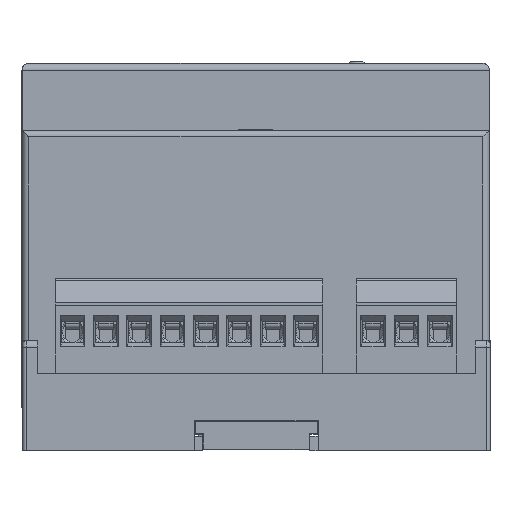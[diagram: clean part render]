
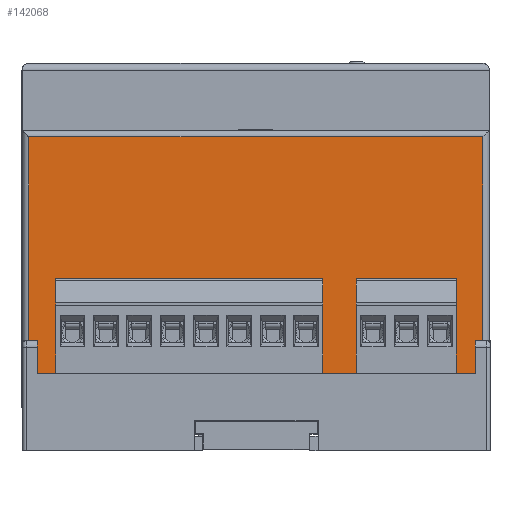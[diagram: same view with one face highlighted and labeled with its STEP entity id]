
A CAD part, front view. The second image highlights one B-rep face of the part: STEP entity #142068.
In plain terms, the highlighted planar face has unit normal (0, -1, 0) as drawn and (0, 0, 1) by its records, which use the part's own axes.
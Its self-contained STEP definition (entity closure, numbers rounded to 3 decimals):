
#1389 = DIRECTION ( 'NONE',  ( 0., -1., 0. ) ) ;
#1850 = VECTOR ( 'NONE', #75907, 1000. ) ;
#2167 = CARTESIAN_POINT ( 'NONE',  ( 1., 30.5, 0. ) ) ;
#2697 = CARTESIAN_POINT ( 'NONE',  ( 68.5, -5., 0. ) ) ;
#4814 = DIRECTION ( 'NONE',  ( 0.707, -0.707, 0. ) ) ;
#6516 = LINE ( 'NONE', #123385, #139519 ) ;
#7919 = ORIENTED_EDGE ( 'NONE', *, *, #15115, .T. ) ;
#8834 = DIRECTION ( 'NONE',  ( 1., 0., 0. ) ) ;
#10006 = EDGE_CURVE ( 'NONE', #188296, #124308, #75203, .T. ) ;
#10885 = ORIENTED_EDGE ( 'NONE', *, *, #159944, .T. ) ;
#15115 = EDGE_CURVE ( 'NONE', #127449, #112471, #6516, .T. ) ;
#17260 = CARTESIAN_POINT ( 'NONE',  ( 67., -5., 0. ) ) ;
#19042 = DIRECTION ( 'NONE',  ( -1., 0., 0. ) ) ;
#21162 = LINE ( 'NONE', #69200, #60058 ) ;
#21214 = VECTOR ( 'NONE', #142174, 1000. ) ;
#21686 = CARTESIAN_POINT ( 'NONE',  ( 0., 31.5, 0. ) ) ;
#23894 = ORIENTED_EDGE ( 'NONE', *, *, #71388, .T. ) ;
#24821 = CARTESIAN_POINT ( 'NONE',  ( 70., -9., 0. ) ) ;
#25627 = LINE ( 'NONE', #81844, #94412 ) ;
#29699 = ORIENTED_EDGE ( 'NONE', *, *, #136990, .T. ) ;
#44566 = VECTOR ( 'NONE', #64435, 1000. ) ;
#48608 = LINE ( 'NONE', #2697, #135915 ) ;
#48883 = CARTESIAN_POINT ( 'NONE',  ( 67., -5., 0. ) ) ;
#49672 = CARTESIAN_POINT ( 'NONE',  ( 69., 31.5, 0. ) ) ;
#51061 = PLANE ( 'NONE',  #132216 ) ;
#53032 = CARTESIAN_POINT ( 'NONE',  ( 1., -9., 0. ) ) ;
#56743 = EDGE_CURVE ( 'NONE', #127449, #189437, #21162, .T. ) ;
#57123 = ORIENTED_EDGE ( 'NONE', *, *, #108274, .T. ) ;
#60058 = VECTOR ( 'NONE', #97504, 1000. ) ;
#61082 = CARTESIAN_POINT ( 'NONE',  ( 0., 30.5, 0. ) ) ;
#64435 = DIRECTION ( 'NONE',  ( 0., 1., 0. ) ) ;
#65822 = DIRECTION ( 'NONE',  ( 0., 0., -1. ) ) ;
#68940 = VERTEX_POINT ( 'NONE', #53032 ) ;
#69200 = CARTESIAN_POINT ( 'NONE',  ( 1.5, -5., 0. ) ) ;
#70219 = LINE ( 'NONE', #176916, #177994 ) ;
#71388 = EDGE_CURVE ( 'NONE', #68940, #189437, #25627, .T. ) ;
#75203 = LINE ( 'NONE', #61082, #1850 ) ;
#75739 = DIRECTION ( 'NONE',  ( 0., -1., 0. ) ) ;
#75907 = DIRECTION ( 'NONE',  ( -1., 0., 0. ) ) ;
#76383 = CARTESIAN_POINT ( 'NONE',  ( 1.5, -9., 0. ) ) ;
#79670 = CARTESIAN_POINT ( 'NONE',  ( 3., -5., 0. ) ) ;
#80650 = VERTEX_POINT ( 'NONE', #17260 ) ;
#81844 = CARTESIAN_POINT ( 'NONE',  ( 1.5, -9., 0. ) ) ;
#91007 = VECTOR ( 'NONE', #4814, 1000. ) ;
#91924 = VERTEX_POINT ( 'NONE', #174969 ) ;
#94412 = VECTOR ( 'NONE', #8834, 1000. ) ;
#96847 = LINE ( 'NONE', #179827, #135826 ) ;
#97487 = LINE ( 'NONE', #49672, #44566 ) ;
#97504 = DIRECTION ( 'NONE',  ( 0., -1., 0. ) ) ;
#108024 = ORIENTED_EDGE ( 'NONE', *, *, #160168, .F. ) ;
#108274 = EDGE_CURVE ( 'NONE', #124308, #68940, #70219, .T. ) ;
#112471 = VERTEX_POINT ( 'NONE', #79670 ) ;
#123385 = CARTESIAN_POINT ( 'NONE',  ( 1.5, -6.5, 0. ) ) ;
#124308 = VERTEX_POINT ( 'NONE', #2167 ) ;
#127449 = VERTEX_POINT ( 'NONE', #175118 ) ;
#131093 = ORIENTED_EDGE ( 'NONE', *, *, #10006, .T. ) ;
#132216 = AXIS2_PLACEMENT_3D ( 'NONE', #21686, #65822, #168418 ) ;
#135826 = VECTOR ( 'NONE', #19042, 1000. ) ;
#135915 = VECTOR ( 'NONE', #75739, 1000. ) ;
#136684 = VERTEX_POINT ( 'NONE', #140631 ) ;
#136990 = EDGE_CURVE ( 'NONE', #91924, #136684, #48608, .T. ) ;
#138153 = DIRECTION ( 'NONE',  ( 0.707, 0.707, 0. ) ) ;
#138203 = LINE ( 'NONE', #24821, #21214 ) ;
#139519 = VECTOR ( 'NONE', #138153, 1000. ) ;
#140271 = ORIENTED_EDGE ( 'NONE', *, *, #56743, .F. ) ;
#140631 = CARTESIAN_POINT ( 'NONE',  ( 68.5, -9., 0. ) ) ;
#142068 = ADVANCED_FACE ( 'NONE', ( #147419 ), #51061, .F. ) ;
#142174 = DIRECTION ( 'NONE',  ( 1., 0., 0. ) ) ;
#147419 = FACE_OUTER_BOUND ( 'NONE', #173640, .T. ) ;
#150331 = ORIENTED_EDGE ( 'NONE', *, *, #154829, .T. ) ;
#152932 = VERTEX_POINT ( 'NONE', #154404 ) ;
#154404 = CARTESIAN_POINT ( 'NONE',  ( 69., -9., 0. ) ) ;
#154829 = EDGE_CURVE ( 'NONE', #152932, #188296, #97487, .T. ) ;
#159944 = EDGE_CURVE ( 'NONE', #136684, #152932, #138203, .T. ) ;
#160168 = EDGE_CURVE ( 'NONE', #80650, #112471, #96847, .T. ) ;
#160746 = CARTESIAN_POINT ( 'NONE',  ( 69., 30.5, 0. ) ) ;
#161272 = EDGE_CURVE ( 'NONE', #80650, #91924, #168971, .T. ) ;
#168418 = DIRECTION ( 'NONE',  ( -1., 0., 0. ) ) ;
#168971 = LINE ( 'NONE', #48883, #91007 ) ;
#170405 = ORIENTED_EDGE ( 'NONE', *, *, #161272, .T. ) ;
#173640 = EDGE_LOOP ( 'NONE', ( #57123, #23894, #140271, #7919, #108024, #170405, #29699, #10885, #150331, #131093 ) ) ;
#174969 = CARTESIAN_POINT ( 'NONE',  ( 68.5, -6.5, 0. ) ) ;
#175118 = CARTESIAN_POINT ( 'NONE',  ( 1.5, -6.5, 0. ) ) ;
#176916 = CARTESIAN_POINT ( 'NONE',  ( 1., 31.5, 0. ) ) ;
#177994 = VECTOR ( 'NONE', #1389, 1000. ) ;
#179827 = CARTESIAN_POINT ( 'NONE',  ( 1.5, -5., 0. ) ) ;
#188296 = VERTEX_POINT ( 'NONE', #160746 ) ;
#189437 = VERTEX_POINT ( 'NONE', #76383 ) ;
